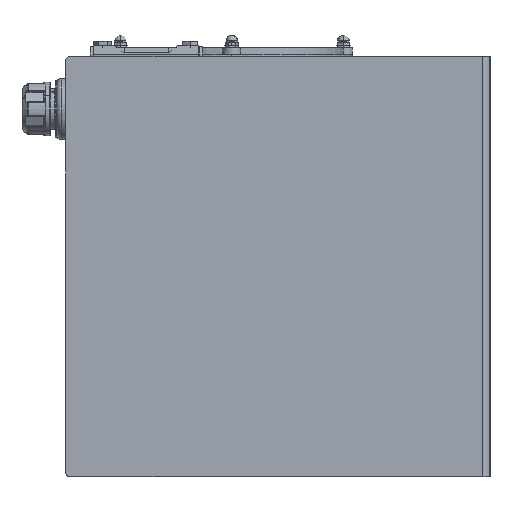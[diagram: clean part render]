
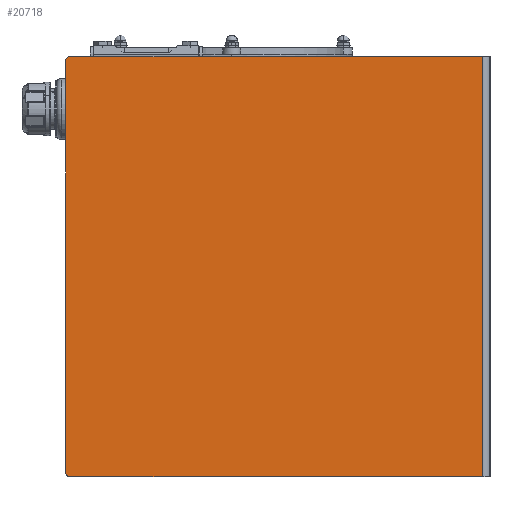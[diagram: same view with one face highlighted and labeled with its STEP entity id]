
A CAD part, left-side view. The second image highlights one B-rep face of the part: STEP entity #20718.
In plain terms, the highlighted planar face has unit normal (-1, 0, 0) as drawn and (0, 0, 1) by its records, which use the part's own axes.
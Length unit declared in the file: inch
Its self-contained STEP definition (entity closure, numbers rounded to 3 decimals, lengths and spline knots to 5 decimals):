
#506 = CARTESIAN_POINT ( 'NONE',  ( -12., -12.125, 0. ) ) ;
#835 = LINE ( 'NONE', #506, #1088 ) ;
#1088 = VECTOR ( 'NONE', #11006, 39.37008 ) ;
#1317 = DIRECTION ( 'NONE',  ( -1., 0., 0. ) ) ;
#1516 = VERTEX_POINT ( 'NONE', #27582 ) ;
#2308 = VERTEX_POINT ( 'NONE', #23543 ) ;
#2647 = AXIS2_PLACEMENT_3D ( 'NONE', #19905, #9586, #1317 ) ;
#3749 = CIRCLE ( 'NONE', #2647, 0.25 ) ;
#3807 = DIRECTION ( 'NONE',  ( -1., 0., 0. ) ) ;
#4009 = EDGE_CURVE ( 'NONE', #22499, #17350, #20157, .T. ) ;
#4614 = EDGE_CURVE ( 'NONE', #1516, #22499, #835, .T. ) ;
#5219 = DIRECTION ( 'NONE',  ( -1., 0., 0. ) ) ;
#5768 = VECTOR ( 'NONE', #19311, 39.37008 ) ;
#5770 = EDGE_LOOP ( 'NONE', ( #17108, #28812, #22635, #7487, #22588, #22040 ) ) ;
#6389 = LINE ( 'NONE', #19794, #5768 ) ;
#6433 = DIRECTION ( 'NONE',  ( 0., 0., -1. ) ) ;
#7487 = ORIENTED_EDGE ( 'NONE', *, *, #14936, .T. ) ;
#8458 = CARTESIAN_POINT ( 'NONE',  ( -11.75, 12.125, 0. ) ) ;
#9586 = DIRECTION ( 'NONE',  ( 0., 0., 1. ) ) ;
#11006 = DIRECTION ( 'NONE',  ( 0., -1., 0. ) ) ;
#11719 = LINE ( 'NONE', #12063, #15048 ) ;
#12063 = CARTESIAN_POINT ( 'NONE',  ( -12., 12.125, 0. ) ) ;
#12090 = CARTESIAN_POINT ( 'NONE',  ( -12., -11.6957, 0. ) ) ;
#13491 = EDGE_CURVE ( 'NONE', #17350, #22864, #6389, .T. ) ;
#14647 = FACE_OUTER_BOUND ( 'NONE', #5770, .T. ) ;
#14936 = EDGE_CURVE ( 'NONE', #15719, #1516, #3749, .T. ) ;
#15048 = VECTOR ( 'NONE', #3807, 39.37008 ) ;
#15719 = VERTEX_POINT ( 'NONE', #8458 ) ;
#16050 = DIRECTION ( 'NONE',  ( -1., 0., 0. ) ) ;
#16750 = AXIS2_PLACEMENT_3D ( 'NONE', #30658, #6433, #5219 ) ;
#16835 = EDGE_CURVE ( 'NONE', #22864, #2308, #33905, .T. ) ;
#16886 = AXIS2_PLACEMENT_3D ( 'NONE', #28770, #33926, #16050 ) ;
#17108 = ORIENTED_EDGE ( 'NONE', *, *, #13491, .T. ) ;
#17350 = VERTEX_POINT ( 'NONE', #26275 ) ;
#18238 = VECTOR ( 'NONE', #25136, 39.37008 ) ;
#19311 = DIRECTION ( 'NONE',  ( 0., 1., 0. ) ) ;
#19794 = CARTESIAN_POINT ( 'NONE',  ( 12., -12.125, 0. ) ) ;
#19905 = CARTESIAN_POINT ( 'NONE',  ( -11.75, 11.875, 0. ) ) ;
#20157 = LINE ( 'NONE', #12090, #18238 ) ;
#20168 = PLANE ( 'NONE',  #16750 ) ;
#20718 = ADVANCED_FACE ( 'NONE', ( #14647 ), #20168, .F. ) ;
#21089 = EDGE_CURVE ( 'NONE', #2308, #15719, #11719, .T. ) ;
#22040 = ORIENTED_EDGE ( 'NONE', *, *, #4009, .T. ) ;
#22499 = VERTEX_POINT ( 'NONE', #24074 ) ;
#22588 = ORIENTED_EDGE ( 'NONE', *, *, #4614, .T. ) ;
#22635 = ORIENTED_EDGE ( 'NONE', *, *, #21089, .T. ) ;
#22864 = VERTEX_POINT ( 'NONE', #26617 ) ;
#23543 = CARTESIAN_POINT ( 'NONE',  ( 11.75, 12.125, 0. ) ) ;
#24074 = CARTESIAN_POINT ( 'NONE',  ( -12., -11.6957, 0. ) ) ;
#25136 = DIRECTION ( 'NONE',  ( 1., 0., 0. ) ) ;
#26275 = CARTESIAN_POINT ( 'NONE',  ( 12., -11.6957, 0. ) ) ;
#26617 = CARTESIAN_POINT ( 'NONE',  ( 12., 11.875, 0. ) ) ;
#27582 = CARTESIAN_POINT ( 'NONE',  ( -12., 11.875, 0. ) ) ;
#28770 = CARTESIAN_POINT ( 'NONE',  ( 11.75, 11.875, 0. ) ) ;
#28812 = ORIENTED_EDGE ( 'NONE', *, *, #16835, .T. ) ;
#30658 = CARTESIAN_POINT ( 'NONE',  ( 0., 0., 0. ) ) ;
#33905 = CIRCLE ( 'NONE', #16886, 0.25 ) ;
#33926 = DIRECTION ( 'NONE',  ( 0., 0., 1. ) ) ;
